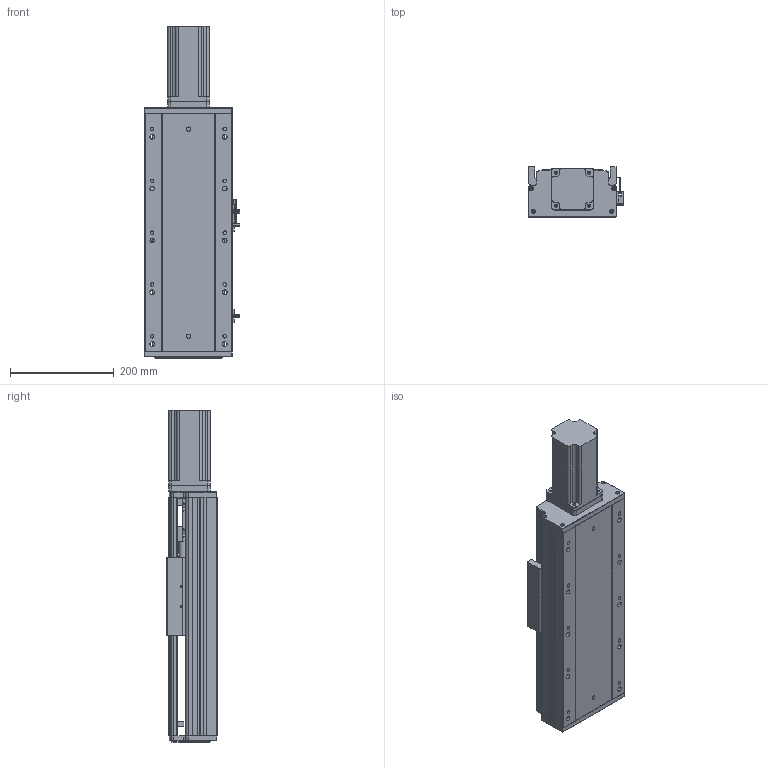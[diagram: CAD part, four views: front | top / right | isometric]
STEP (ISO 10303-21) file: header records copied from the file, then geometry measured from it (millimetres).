
FILE_DESCRIPTION (( 'STEP AP203' ), '1' );
FILE_NAME ('RY170-L2510-300-MK(FK17).SLDASM_150.step', '2022-08-23T02:00:04', ( '' ), ( '' ), 'SwSTEP 2.0', 'SolidWorks 2016', '' );
FILE_SCHEMA (( 'CONFIG_CONTROL_DESIGN' ));
Length unit declared in the file: millimetre
Products named in the file (15): RY170-300倰第菁釱-MK_150; RY170-L2510-300-MK(FK17).SLDASM_150; RY170-300倰第裔啣-MK_150; 侂狟750W萇儂ㄗ80遺ㄘ; RY170外置感应片(200共用）; 滅袉蝶18-28; RY170臏賑輸25佪裝蹟譫; 750W萇儂梓袧蛌諉啣; 15; RY170綴裔啣; 滅袉蝶18-10; 覜茼ん672; 侂狟400W侜督萇儂; RY170电机端支撑座(25丝杆7004轴承)-压铸(FK17); RY170ヶ醱裔啣
Assembly tree (16 placements, depth 3):
  RY170-L2510-300-MK(FK17).SLDASM_150
    RY170-300倰第菁釱-MK_150
    RY170-300倰第裔啣-MK_150
    RY170臏賑輸25佪裝蹟譫
    侂狟400W侜督萇儂
      15
    RY170綴裔啣
    RY170电机端支撑座(25丝杆7004轴承)-压铸(FK17)
    覜茼ん672  x3
    RY170外置感应片(200共用）
    RY170ヶ醱裔啣
    滅袉蝶18-28
    滅袉蝶18-10
    侂狟750W萇儂ㄗ80遺ㄘ
    750W萇儂梓袧蛌諉啣
Bounding box: 183.7 x 97 x 641 mm (x, y, z)
Volume: 4198151.4 mm3; surface area: 1047018.9 mm2
Topology: 15 solids, 15 shells, 2091 faces, 5931 edges, 3814 vertices
Faces by surface type: plane 1014, cylinder 846, cone 195, bspline 36
Entity records: 66915 total; most frequent: CARTESIAN_POINT 15238, ORIENTED_EDGE 10666, DIRECTION 10335, EDGE_CURVE 5333, AXIS2_PLACEMENT_3D 3564, VERTEX_POINT 3494, VECTOR 3207, LINE 3207
